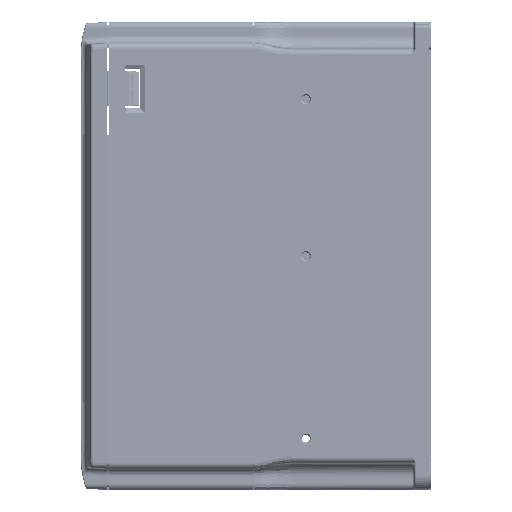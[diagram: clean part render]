
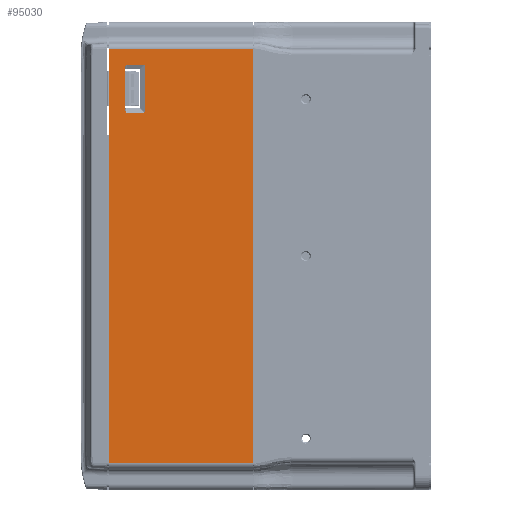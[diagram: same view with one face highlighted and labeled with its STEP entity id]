
A CAD part, left-side view. The second image highlights one B-rep face of the part: STEP entity #95030.
In plain terms, the highlighted planar face has unit normal (-1, 0, 0).
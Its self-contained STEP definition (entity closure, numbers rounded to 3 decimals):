
#55717=DIRECTION('',(0.,0.,1.));
#55718=VECTOR('',#55717,177.);
#55719=CARTESIAN_POINT('',(-65.,-30.8,-88.5));
#55720=LINE('',#55719,#55718);
#63218=DIRECTION('',(0.,1.,0.));
#63219=VECTOR('',#63218,61.7);
#63220=CARTESIAN_POINT('',(-65.,-30.8,88.5));
#63221=LINE('',#63220,#63219);
#63232=DIRECTION('',(0.,0.,1.));
#63233=VECTOR('',#63232,177.);
#63234=CARTESIAN_POINT('',(-65.,30.9,-88.5));
#63235=LINE('',#63234,#63233);
#63246=DIRECTION('',(0.,-1.,0.));
#63247=VECTOR('',#63246,61.7);
#63248=CARTESIAN_POINT('',(-65.,30.9,-88.5));
#63249=LINE('',#63248,#63247);
#63288=DIRECTION('',(0.,0.,-1.));
#63289=VECTOR('',#63288,20.053);
#63290=CARTESIAN_POINT('',(-65.,15.5,81.526));
#63291=LINE('',#63290,#63289);
#63318=CARTESIAN_POINT('',(-65.,15.724,81.75));
#63319=CARTESIAN_POINT('',(-65.,15.575,81.75));
#63320=CARTESIAN_POINT('',(-65.,15.5,81.675));
#63321=CARTESIAN_POINT('',(-65.,15.5,81.526));
#63389=DIRECTION('',(0.,0.,1.));
#63390=VECTOR('',#63389,18.264);
#63391=CARTESIAN_POINT('',(-65.,23.7,62.368));
#63392=LINE('',#63391,#63390);
#63412=CARTESIAN_POINT('',(-65.,23.7,80.632));
#63413=CARTESIAN_POINT('',(-65.,23.7,80.902));
#63414=CARTESIAN_POINT('',(-65.,23.646,81.252));
#63415=CARTESIAN_POINT('',(-65.,23.46,81.606));
#63416=CARTESIAN_POINT('',(-65.,23.335,81.75));
#63417=CARTESIAN_POINT('',(-65.,23.2,81.75));
#63422=DIRECTION('',(0.,-1.,0.));
#63423=VECTOR('',#63422,7.476);
#63424=CARTESIAN_POINT('',(-65.,23.2,81.75));
#63425=LINE('',#63424,#63423);
#63612=CARTESIAN_POINT('',(-65.,15.5,61.474));
#63613=CARTESIAN_POINT('',(-65.,15.5,61.325));
#63614=CARTESIAN_POINT('',(-65.,15.575,61.25));
#63615=CARTESIAN_POINT('',(-65.,15.724,61.25));
#63627=DIRECTION('',(0.,1.,0.));
#63628=VECTOR('',#63627,7.476);
#63629=CARTESIAN_POINT('',(-65.,15.724,61.25));
#63630=LINE('',#63629,#63628);
#63641=CARTESIAN_POINT('',(-65.,23.2,61.25));
#63642=CARTESIAN_POINT('',(-65.,23.335,61.25));
#63643=CARTESIAN_POINT('',(-65.,23.46,61.394));
#63644=CARTESIAN_POINT('',(-65.,23.646,61.748));
#63645=CARTESIAN_POINT('',(-65.,23.7,62.098));
#63646=CARTESIAN_POINT('',(-65.,23.7,62.368));
#83448=CARTESIAN_POINT('',(-65.,30.9,88.5));
#83449=VERTEX_POINT('',#83448);
#83450=CARTESIAN_POINT('',(-65.,30.9,-88.5));
#83451=VERTEX_POINT('',#83450);
#83525=CARTESIAN_POINT('',(-65.,-30.8,-88.5));
#83526=VERTEX_POINT('',#83525);
#83527=CARTESIAN_POINT('',(-65.,-30.8,88.5));
#83528=VERTEX_POINT('',#83527);
#86014=CARTESIAN_POINT('',(-65.,15.5,81.526));
#86015=CARTESIAN_POINT('',(-65.,15.5,61.474));
#86016=VERTEX_POINT('',#86014);
#86017=VERTEX_POINT('',#86015);
#86018=VERTEX_POINT('',#63318);
#86019=CARTESIAN_POINT('',(-65.,23.2,81.75));
#86020=VERTEX_POINT('',#86019);
#86021=VERTEX_POINT('',#63412);
#86022=CARTESIAN_POINT('',(-65.,23.7,62.368));
#86023=VERTEX_POINT('',#86022);
#86024=VERTEX_POINT('',#63641);
#86025=CARTESIAN_POINT('',(-65.,15.724,61.25));
#86026=VERTEX_POINT('',#86025);
#95000=CARTESIAN_POINT('',(-65.,-32.9,-100.));
#95001=DIRECTION('',(-1.,0.,0.));
#95002=DIRECTION('',(0.,0.,1.));
#95003=AXIS2_PLACEMENT_3D('',#95000,#95001,#95002);
#95004=PLANE('',#95003);
#95005=ORIENTED_EDGE('',*,*,#88587,.F.);
#95007=ORIENTED_EDGE('',*,*,#95006,.F.);
#95008=ORIENTED_EDGE('',*,*,#88430,.T.);
#95009=ORIENTED_EDGE('',*,*,#94986,.F.);
#95010=EDGE_LOOP('',(#95005,#95007,#95008,#95009));
#95011=FACE_OUTER_BOUND('',#95010,.F.);
#95013=ORIENTED_EDGE('',*,*,#95012,.F.);
#95015=ORIENTED_EDGE('',*,*,#95014,.F.);
#95017=ORIENTED_EDGE('',*,*,#95016,.F.);
#95019=ORIENTED_EDGE('',*,*,#95018,.F.);
#95021=ORIENTED_EDGE('',*,*,#95020,.F.);
#95023=ORIENTED_EDGE('',*,*,#95022,.F.);
#95025=ORIENTED_EDGE('',*,*,#95024,.F.);
#95027=ORIENTED_EDGE('',*,*,#95026,.F.);
#95028=EDGE_LOOP('',(#95013,#95015,#95017,#95019,#95021,#95023,#95025,#95027));
#95029=FACE_BOUND('',#95028,.F.);
#63322=B_SPLINE_CURVE_WITH_KNOTS('',3,(#63318,#63319,#63320,#63321),
.UNSPECIFIED.,.F.,.F.,(4,4),(0.,1.),.UNSPECIFIED.);
#63418=B_SPLINE_CURVE_WITH_KNOTS('',3,(#63412,#63413,#63414,#63415,#63416,
#63417),.UNSPECIFIED.,.F.,.F.,(4,1,1,4),(0.,0.5,0.75,1.),.UNSPECIFIED.);
#63616=B_SPLINE_CURVE_WITH_KNOTS('',3,(#63612,#63613,#63614,#63615),
.UNSPECIFIED.,.F.,.F.,(4,4),(0.,1.),.UNSPECIFIED.);
#63647=B_SPLINE_CURVE_WITH_KNOTS('',3,(#63641,#63642,#63643,#63644,#63645,
#63646),.UNSPECIFIED.,.F.,.F.,(4,1,1,4),(0.,0.25,0.5,1.),.UNSPECIFIED.);
#88430=EDGE_CURVE('',#83451,#83449,#63235,.T.);
#88587=EDGE_CURVE('',#83526,#83528,#55720,.T.);
#94986=EDGE_CURVE('',#83528,#83449,#63221,.T.);
#95006=EDGE_CURVE('',#83451,#83526,#63249,.T.);
#95012=EDGE_CURVE('',#86016,#86017,#63291,.T.);
#95014=EDGE_CURVE('',#86018,#86016,#63322,.T.);
#95016=EDGE_CURVE('',#86020,#86018,#63425,.T.);
#95018=EDGE_CURVE('',#86021,#86020,#63418,.T.);
#95020=EDGE_CURVE('',#86023,#86021,#63392,.T.);
#95022=EDGE_CURVE('',#86024,#86023,#63647,.T.);
#95024=EDGE_CURVE('',#86026,#86024,#63630,.T.);
#95026=EDGE_CURVE('',#86017,#86026,#63616,.T.);
#95030=ADVANCED_FACE('',(#95011,#95029),#95004,.T.);
